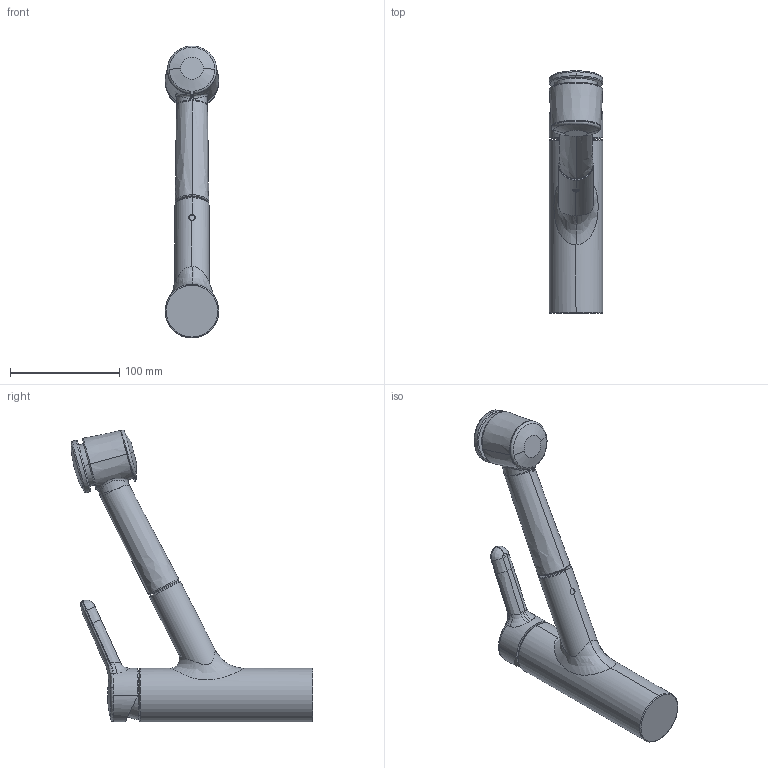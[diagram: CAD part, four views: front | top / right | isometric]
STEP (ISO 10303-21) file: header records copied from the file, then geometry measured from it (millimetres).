
FILE_DESCRIPTION((''),'2;1');
FILE_NAME('10471032','2020-09-22T14:50:30',('SN986'),(''),'CREO PARAMETRIC BY PTC INC, 2018500','CREO PARAMETRIC BY PTC INC, 2018500','');
FILE_SCHEMA(('CONFIG_CONTROL_DESIGN'));
Length unit declared in the file: millimetre
Products named in the file (1): 10471032
Bounding box: 49 x 220.98 x 266.62 mm (x, y, z)
Volume: 574491.6 mm3; surface area: 72297.2 mm2
Topology: 2 solids, 3 shells, 142 faces, 319 edges, 186 vertices
Faces by surface type: bspline 52, cylinder 37, plane 24, torus 14, cone 7, sphere 6, extrusion 2
Entity records: 8216 total; most frequent: CARTESIAN_POINT 5426, ORIENTED_EDGE 630, DIRECTION 467, EDGE_CURVE 315, AXIS2_PLACEMENT_3D 198, VERTEX_POINT 186, EDGE_LOOP 149, FACE_OUTER_BOUND 142
